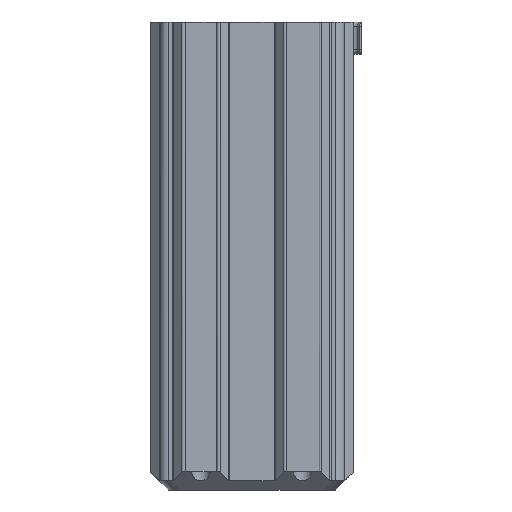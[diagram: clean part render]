
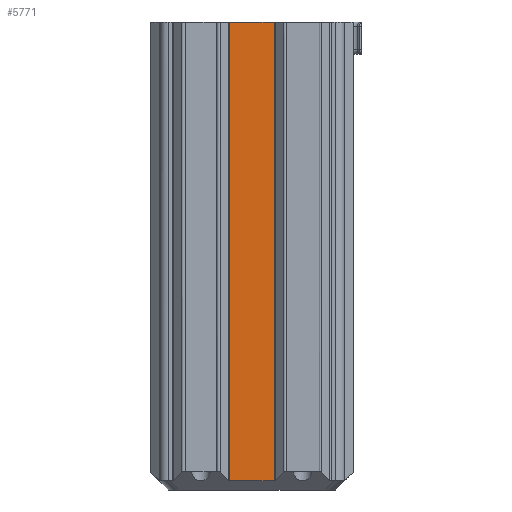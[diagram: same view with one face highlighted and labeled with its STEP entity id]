
A CAD part, left-side view. The second image highlights one B-rep face of the part: STEP entity #5771.
In plain terms, the highlighted planar face has unit normal (-1, 0, 0).
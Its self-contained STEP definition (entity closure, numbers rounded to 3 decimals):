
#658=FACE_OUTER_BOUND('',#954,.T.);
#954=EDGE_LOOP('',(#4802,#4803,#4804,#4805));
#1177=LINE('',#8562,#1713);
#1438=LINE('',#9375,#1974);
#1452=LINE('',#9411,#1988);
#1489=LINE('',#9512,#2025);
#1713=VECTOR('',#6817,10.);
#1974=VECTOR('',#7658,10.);
#1988=VECTOR('',#7698,10.);
#2025=VECTOR('',#7831,10.);
#2273=VERTEX_POINT('',#8559);
#2274=VERTEX_POINT('',#8561);
#2535=VERTEX_POINT('',#9372);
#2536=VERTEX_POINT('',#9374);
#2852=EDGE_CURVE('',#2273,#2274,#1177,.T.);
#3259=EDGE_CURVE('',#2535,#2536,#1438,.T.);
#3279=EDGE_CURVE('',#2536,#2273,#1452,.T.);
#3330=EDGE_CURVE('',#2274,#2535,#1489,.T.);
#4802=ORIENTED_EDGE('',*,*,#3279,.F.);
#4803=ORIENTED_EDGE('',*,*,#3259,.F.);
#4804=ORIENTED_EDGE('',*,*,#3330,.F.);
#4805=ORIENTED_EDGE('',*,*,#2852,.F.);
#5223=PLANE('',#6319);
#5771=ADVANCED_FACE('',(#658),#5223,.T.);
#6319=AXIS2_PLACEMENT_3D('',#9515,#7836,#7837);
#6817=DIRECTION('',(0.,-1.,0.));
#7658=DIRECTION('',(0.,1.,0.));
#7698=DIRECTION('',(0.,0.,1.));
#7831=DIRECTION('',(0.,0.,-1.));
#7836=DIRECTION('center_axis',(-1.,0.,0.));
#7837=DIRECTION('ref_axis',(0.,1.,0.));
#8559=CARTESIAN_POINT('',(2.,26.834,0.));
#8561=CARTESIAN_POINT('',(2.,17.166,0.));
#8562=CARTESIAN_POINT('',(2.,42.,0.));
#9372=CARTESIAN_POINT('',(2.,17.166,-99.2));
#9374=CARTESIAN_POINT('',(2.,26.834,-99.2));
#9375=CARTESIAN_POINT('',(2.,12.,-99.2));
#9411=CARTESIAN_POINT('',(2.,26.834,0.));
#9512=CARTESIAN_POINT('',(2.,17.166,0.));
#9515=CARTESIAN_POINT('Origin',(2.,2.,0.));
